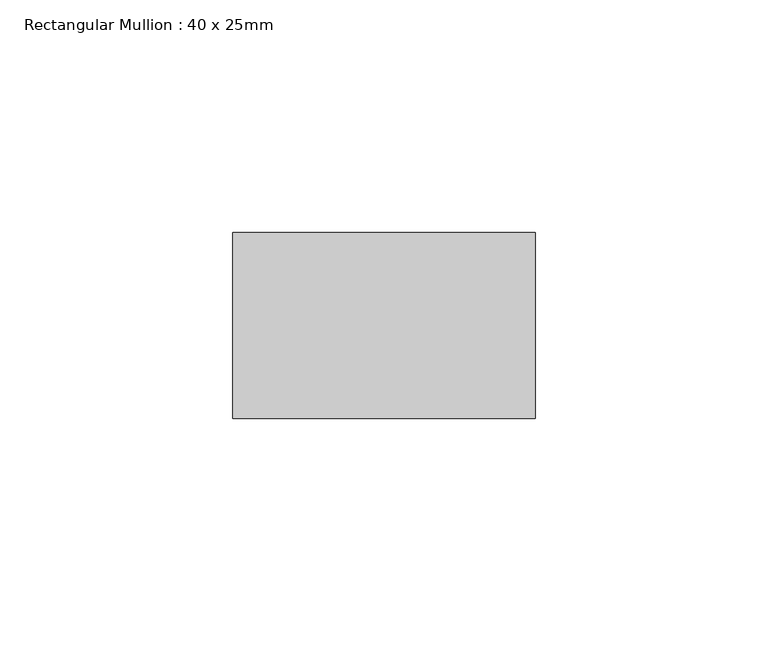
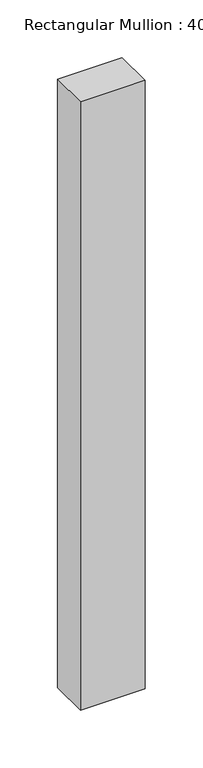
"""IFC4 building model written with IfcOpenShell, lengths in millimetres: member geometry, Rectangular Mullion : 40 x 25mm."""

from ifc_helpers import new_model, si_unit, frame, origin, place, context, project, spatial, polyline, outline, extrude, source, transform, mapped, element, save


def rectangular_mullion_40_x_25mm_d1ba37cc(model_context):
    return source(origin(), model_context, "Body", "SweptSolid", [
        extrude(outline(polyline([(0.0, -20.0), (0.0, -60.0), (-65.0, -60.0), (-65.0, -20.0), (0.0, -20.0)])), frame((0.0, 0.0, -644.9021106), z_axis=(0.0, 0.0, 1.0), x_axis=(1.0, 0.0, 0.0)), (0.0, 0.0, 1.0), 644.9021106),
    ])


if __name__ == "__main__":
    model = new_model("IFC4")
    model_context = context("Model", 3, world=origin())
    ifc_project = project(units=[si_unit("LENGTHUNIT", "METRE", prefix="MILLI")], contexts=[model_context])
    site = spatial("IfcSite", under=ifc_project)
    building = spatial("IfcBuilding", under=site)
    placement = place(None, origin())
    rectangular_mullion_40_x_25mm_shape = rectangular_mullion_40_x_25mm_d1ba37cc(model_context)
    element("IfcMember", 1, ObjectType="Rectangular Mullion : 40 x 25mm", at=placement, inside=building, context=model_context, shape_type="MappedRepresentation", body=[
        mapped(rectangular_mullion_40_x_25mm_shape, transform((0.0, 0.0, 0.0), x_axis=(1.0, 0.0, 0.0), y_axis=(0.0, 1.0, 0.0), z_axis=(0.0, 0.0, 1.0))),
    ])
    save(model, "model.ifc")
